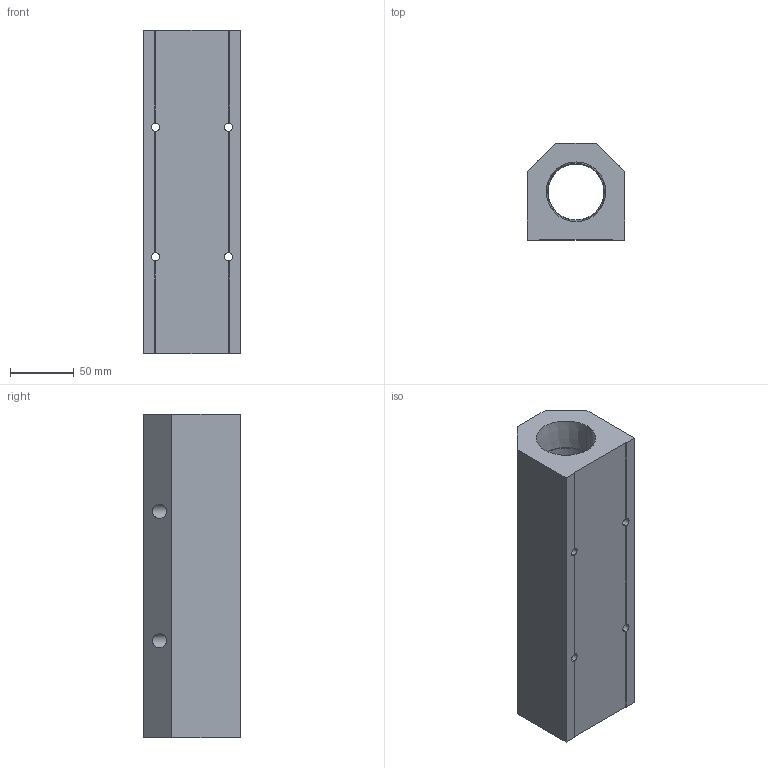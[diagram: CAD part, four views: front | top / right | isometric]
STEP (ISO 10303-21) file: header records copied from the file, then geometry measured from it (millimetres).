
FILE_DESCRIPTION (( 'STEP AP214' ), '1' );
FILE_NAME ('ALM4C-N6N24-254R.step', '2022-02-07T07:58:03', ( '' ), ( '' ), 'SwSTEP 2.0', 'SolidWorks 2020', '' );
FILE_SCHEMA (( 'AUTOMOTIVE_DESIGN' ));
Length unit declared in the file: millimetre
Products named in the file (1): ALM4C-N6N24-254R
Bounding box: 76.2 x 76.2 x 254 mm (x, y, z)
Volume: 925665.4 mm3; surface area: 120789.4 mm2
Topology: 1 solids, 1 shells, 290 faces, 766 edges, 508 vertices
Faces by surface type: plane 213, bspline 47, cylinder 18, cone 12
Entity records: 15167 total; most frequent: CARTESIAN_POINT 5572, ORIENTED_EDGE 1532, DIRECTION 1180, EDGE_CURVE 766, VECTOR 604, LINE 604, VERTEX_POINT 508, EDGE_LOOP 338
